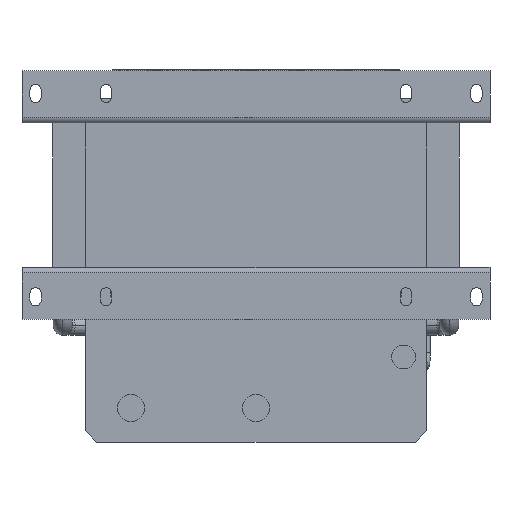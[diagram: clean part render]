
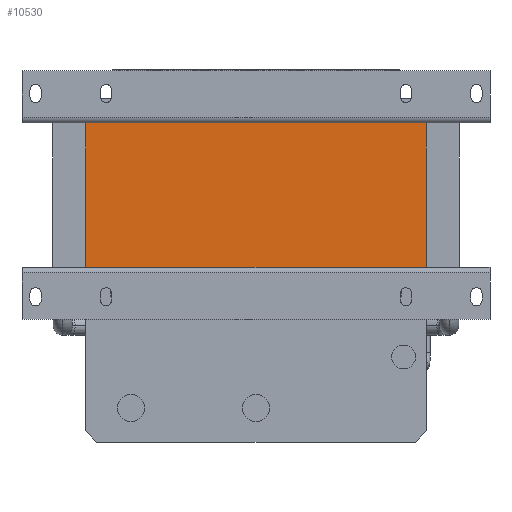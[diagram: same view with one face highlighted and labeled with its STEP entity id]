
A CAD part, front view. The second image highlights one B-rep face of the part: STEP entity #10530.
In plain terms, the highlighted planar face has unit normal (0, -1, 0).
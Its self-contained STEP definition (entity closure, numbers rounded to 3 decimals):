
#2954 = LINE ( 'NONE', #14745, #11957 ) ;
#3886 = CARTESIAN_POINT ( 'NONE',  ( 150., 5., 63.5 ) ) ;
#4439 = CARTESIAN_POINT ( 'NONE',  ( -150., 5., 63.5 ) ) ;
#4821 = EDGE_CURVE ( 'NONE', #9685, #13655, #34606, .T. ) ;
#5182 = LINE ( 'NONE', #19853, #10891 ) ;
#6867 = EDGE_CURVE ( 'NONE', #13655, #35727, #5182, .T. ) ;
#9685 = VERTEX_POINT ( 'NONE', #31007 ) ;
#9784 = CARTESIAN_POINT ( 'NONE',  ( 150., 5., -63.5 ) ) ;
#10414 = CARTESIAN_POINT ( 'NONE',  ( 150., 5., 63.5 ) ) ;
#10530 = ADVANCED_FACE ( 'NONE', ( #30915 ), #19128, .F. ) ;
#10882 = CARTESIAN_POINT ( 'NONE',  ( -150., 5., 63.5 ) ) ;
#10891 = VECTOR ( 'NONE', #25860, 1000. ) ;
#11834 = DIRECTION ( 'NONE',  ( 1., 0., 0. ) ) ;
#11957 = VECTOR ( 'NONE', #11834, 1000. ) ;
#13655 = VERTEX_POINT ( 'NONE', #27088 ) ;
#14745 = CARTESIAN_POINT ( 'NONE',  ( -150., 5., 63.5 ) ) ;
#15652 = LINE ( 'NONE', #10414, #18199 ) ;
#15661 = ORIENTED_EDGE ( 'NONE', *, *, #25751, .F. ) ;
#16241 = EDGE_CURVE ( 'NONE', #9685, #24560, #2954, .T. ) ;
#16674 = VECTOR ( 'NONE', #17435, 1000. ) ;
#16799 = ORIENTED_EDGE ( 'NONE', *, *, #6867, .T. ) ;
#17435 = DIRECTION ( 'NONE',  ( 0., 0., -1. ) ) ;
#18199 = VECTOR ( 'NONE', #24530, 1000. ) ;
#18581 = ORIENTED_EDGE ( 'NONE', *, *, #16241, .F. ) ;
#19128 = PLANE ( 'NONE',  #21476 ) ;
#19310 = EDGE_LOOP ( 'NONE', ( #16799, #15661, #18581, #24917 ) ) ;
#19853 = CARTESIAN_POINT ( 'NONE',  ( -150., 5., -63.5 ) ) ;
#21476 = AXIS2_PLACEMENT_3D ( 'NONE', #4439, #31111, #22031 ) ;
#22031 = DIRECTION ( 'NONE',  ( 0., 0., 1. ) ) ;
#24530 = DIRECTION ( 'NONE',  ( 0., 0., -1. ) ) ;
#24560 = VERTEX_POINT ( 'NONE', #3886 ) ;
#24917 = ORIENTED_EDGE ( 'NONE', *, *, #4821, .T. ) ;
#25751 = EDGE_CURVE ( 'NONE', #24560, #35727, #15652, .T. ) ;
#25860 = DIRECTION ( 'NONE',  ( 1., 0., 0. ) ) ;
#27088 = CARTESIAN_POINT ( 'NONE',  ( -150., 5., -63.5 ) ) ;
#30915 = FACE_OUTER_BOUND ( 'NONE', #19310, .T. ) ;
#31007 = CARTESIAN_POINT ( 'NONE',  ( -150., 5., 63.5 ) ) ;
#31111 = DIRECTION ( 'NONE',  ( 0., 1., 0. ) ) ;
#34606 = LINE ( 'NONE', #10882, #16674 ) ;
#35727 = VERTEX_POINT ( 'NONE', #9784 ) ;
